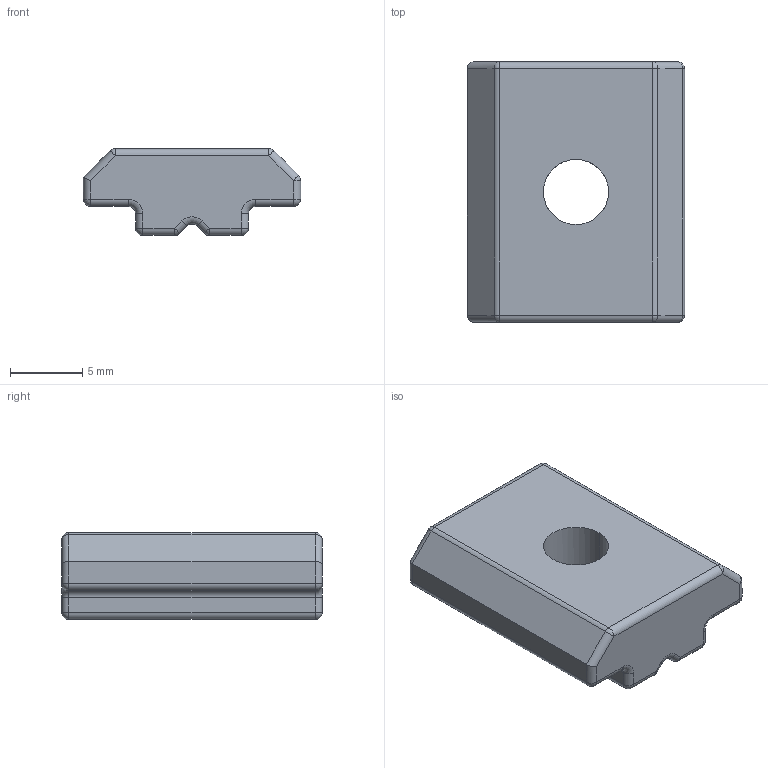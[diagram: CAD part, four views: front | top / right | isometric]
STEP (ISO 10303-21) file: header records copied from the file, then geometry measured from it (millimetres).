
FILE_DESCRIPTION (( 'STEP AP203' ), '1' );
FILE_NAME ('5067.STEP', '2016-04-22T16:18:24', ( '' ), ( '' ), 'SwSTEP 2.0', 'SolidWorks 2014', '' );
FILE_SCHEMA (( 'CONFIG_CONTROL_DESIGN' ));
Length unit declared in the file: millimetre
Products named in the file (1): 5067
Bounding box: 15 x 18 x 6 mm (x, y, z)
Volume: 1174.1 mm3; surface area: 872.5 mm2
Topology: 1 solids, 1 shells, 84 faces, 199 edges, 98 vertices
Faces by surface type: cylinder 43, sphere 18, plane 17, torus 6
Entity records: 2316 total; most frequent: DIRECTION 423, CARTESIAN_POINT 404, ORIENTED_EDGE 362, EDGE_CURVE 181, AXIS2_PLACEMENT_3D 169, VERTEX_POINT 98, EDGE_LOOP 85, LINE 85
